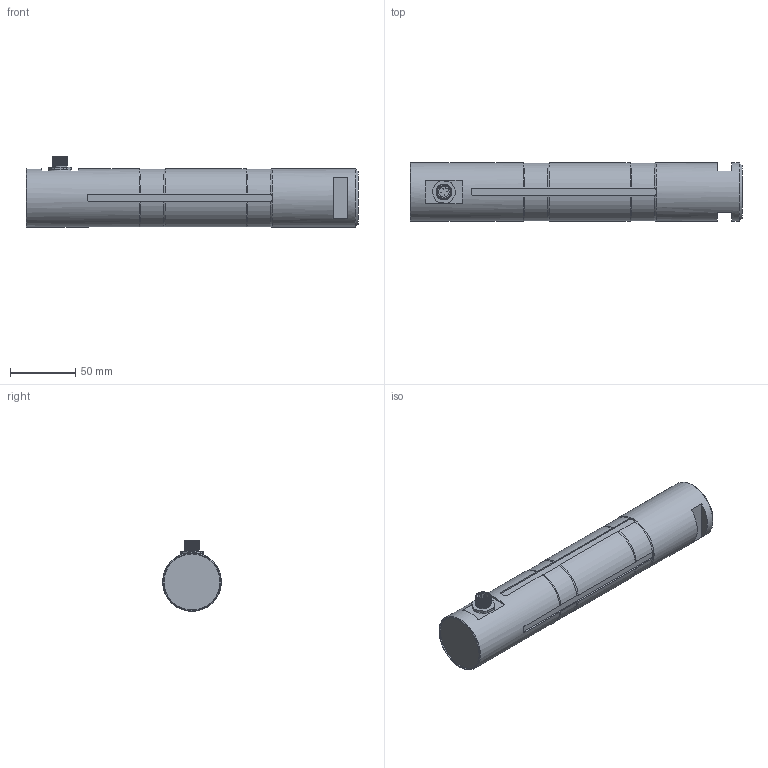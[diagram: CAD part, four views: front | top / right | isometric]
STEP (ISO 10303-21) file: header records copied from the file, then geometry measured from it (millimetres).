
FILE_DESCRIPTION(/* description */ ('Alibre Inc.'),/* implementation_level */ '2;1');
FILE_NAME(/* name */ 'export0',/* time_stamp */ '2017-07-25T20:05:57+02:00',/* author */ (''),/* organization */ (''),/* preprocessor_version */ 'ST-DEVELOPER v14',/* originating_system */ 'Alibre',/* authorisation */ '');
FILE_SCHEMA (('CONFIG_CONTROL_DESIGN'));
Length unit declared in the file: centimetre
Products named in the file (6): ID_1; ID_2; ID_3; ID_4
Bounding box: 255 x 45 x 54.12 mm (x, y, z)
Volume: 393608.3 mm3; surface area: 45011.8 mm2
Topology: 8 solids, 8 shells, 186 faces, 434 edges, 273 vertices
Faces by surface type: plane 74, cylinder 66, bspline 23, torus 17, cone 6
Full cylindrical faces by diameter (mm): 0.5 x8, 8 x2, 10 x4, 11.5 x1, 13 x1, 14.376 x1, 43 x1, 45 x2
Entity records: 15887 total; most frequent: CARTESIAN_POINT 11871, ORIENTED_EDGE 802, DIRECTION 492, EDGE_CURVE 396, VERTEX_POINT 263, FACE_BOUND 230, EDGE_LOOP 229, AXIS2_PLACEMENT_3D 210
